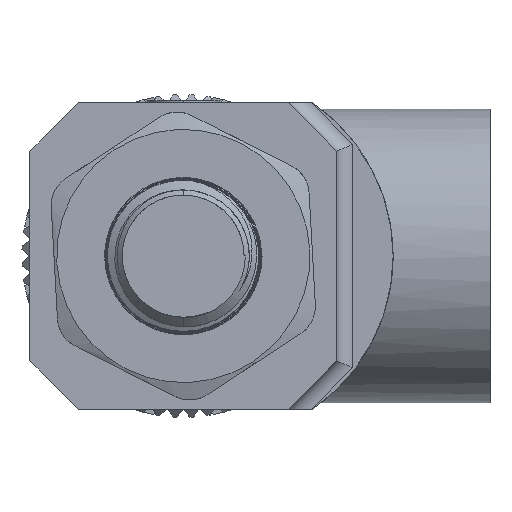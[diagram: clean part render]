
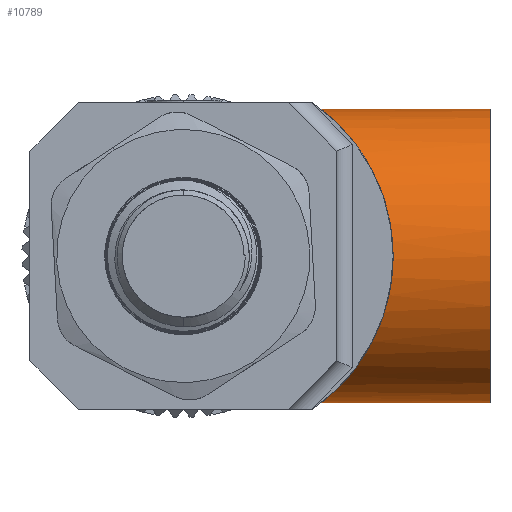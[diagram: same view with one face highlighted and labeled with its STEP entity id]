
A CAD part, front view. The second image highlights one B-rep face of the part: STEP entity #10789.
In plain terms, the highlighted cylindrical face has radius 9.1 mm (diameter 18.2 mm), a partial arc.
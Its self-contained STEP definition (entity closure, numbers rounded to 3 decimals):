
#70 = DIRECTION ( 'NONE',  ( -1., 0., 0. ) ) ;
#177 = CARTESIAN_POINT ( 'NONE',  ( 8.942, -2.453, 8.768 ) ) ;
#235 = CARTESIAN_POINT ( 'NONE',  ( 11.537, -7.166, -5.639 ) ) ;
#245 = B_SPLINE_CURVE_WITH_KNOTS ( 'NONE', 3,
 ( #2957, #8789, #13089, #12831, #177, #10219, #3085, #4545, #18547, #9966, #11774, #7550, #11715, #4730, #14793, #10461, #16015, #14732, #17536, #16203, #6194, #6319, #16140, #13153, #7615, #6257, #1803, #11911, #4801, #3145, #7740, #7675, #3338, #1740, #10400, #235, #17606, #1872, #4609, #1668, #11847, #3266, #3209, #13341, #16267, #11973, #13281, #8977, #14667, #14602, #14853, #9041 ),
 .UNSPECIFIED., .F., .F.,
 ( 4, 2, 2, 2, 2, 2, 2, 2, 2, 2, 2, 2, 2, 2, 2, 2, 2, 2, 2, 2, 2, 2, 2, 2, 2, 4 ),
 ( 0., 0.002, 0.003, 0.004, 0.006, 0.008, 0.008, 0.009, 0.011, 0.012, 0.013, 0.014, 0.015, 0.016, 0.017, 0.019, 0.02, 0.021, 0.023, 0.024, 0.025, 0.026, 0.027, 0.028, 0.029, 0.03 ),
 .UNSPECIFIED. ) ;
#263 = DIRECTION ( 'NONE',  ( -1., 0., 0. ) ) ;
#390 = CARTESIAN_POINT ( 'NONE',  ( 0., 0., 9.1 ) ) ;
#999 = VERTEX_POINT ( 'NONE', #18235 ) ;
#1464 = VECTOR ( 'NONE', #263, 1000. ) ;
#1668 = CARTESIAN_POINT ( 'NONE',  ( 10.035, -4.841, -7.711 ) ) ;
#1740 = CARTESIAN_POINT ( 'NONE',  ( 12.012, -7.815, -4.672 ) ) ;
#1803 = CARTESIAN_POINT ( 'NONE',  ( 12.988, -9.085, -0.613 ) ) ;
#1872 = CARTESIAN_POINT ( 'NONE',  ( 10.728, -5.983, -6.88 ) ) ;
#1956 = VERTEX_POINT ( 'NONE', #5621 ) ;
#2160 = LINE ( 'NONE', #390, #1464 ) ;
#2690 = CARTESIAN_POINT ( 'NONE',  ( 19., 0., -9.1 ) ) ;
#2957 = CARTESIAN_POINT ( 'NONE',  ( 8.531, 0., 9.1 ) ) ;
#3085 = CARTESIAN_POINT ( 'NONE',  ( 9.261, -3.294, 8.488 ) ) ;
#3117 = ORIENTED_EDGE ( 'NONE', *, *, #18292, .T. ) ;
#3145 = CARTESIAN_POINT ( 'NONE',  ( 12.75, -8.782, -2.467 ) ) ;
#3209 = CARTESIAN_POINT ( 'NONE',  ( 9.505, -3.834, -8.258 ) ) ;
#3266 = CARTESIAN_POINT ( 'NONE',  ( 9.633, -4.092, -8.133 ) ) ;
#3338 = CARTESIAN_POINT ( 'NONE',  ( 12.227, -8.102, -4.153 ) ) ;
#4545 = CARTESIAN_POINT ( 'NONE',  ( 9.622, -4.094, 8.148 ) ) ;
#4609 = CARTESIAN_POINT ( 'NONE',  ( 10.448, -5.548, -7.236 ) ) ;
#4730 = CARTESIAN_POINT ( 'NONE',  ( 11.522, -7.143, 5.646 ) ) ;
#4801 = CARTESIAN_POINT ( 'NONE',  ( 12.9, -8.973, -1.548 ) ) ;
#5430 = CARTESIAN_POINT ( 'NONE',  ( 0., 0., -9.1 ) ) ;
#5621 = CARTESIAN_POINT ( 'NONE',  ( 19., 0., 9.1 ) ) ;
#5760 = CARTESIAN_POINT ( 'NONE',  ( 0., 0., 0. ) ) ;
#5979 = EDGE_CURVE ( 'NONE', #1956, #18186, #2160, .T. ) ;
#6009 = VECTOR ( 'NONE', #18369, 1000. ) ;
#6194 = CARTESIAN_POINT ( 'NONE',  ( 12.794, -8.839, 2.187 ) ) ;
#6257 = CARTESIAN_POINT ( 'NONE',  ( 13., -9.1, -0.3 ) ) ;
#6319 = CARTESIAN_POINT ( 'NONE',  ( 12.895, -8.967, 1.581 ) ) ;
#6391 = VERTEX_POINT ( 'NONE', #2690 ) ;
#7081 = CIRCLE ( 'NONE', #14361, 9.1 ) ;
#7550 = CARTESIAN_POINT ( 'NONE',  ( 11.127, -6.577, 6.295 ) ) ;
#7615 = CARTESIAN_POINT ( 'NONE',  ( 13., -9.1, 0.327 ) ) ;
#7675 = CARTESIAN_POINT ( 'NONE',  ( 12.329, -8.236, -3.882 ) ) ;
#7740 = CARTESIAN_POINT ( 'NONE',  ( 12.604, -8.595, -3.049 ) ) ;
#8789 = CARTESIAN_POINT ( 'NONE',  ( 8.531, -0.638, 9.1 ) ) ;
#8977 = CARTESIAN_POINT ( 'NONE',  ( 8.697, -1.562, -8.97 ) ) ;
#9041 = CARTESIAN_POINT ( 'NONE',  ( 8.531, 0., -9.1 ) ) ;
#9468 = CARTESIAN_POINT ( 'NONE',  ( 19., 0., 0. ) ) ;
#9772 = EDGE_CURVE ( 'NONE', #18186, #999, #245, .T. ) ;
#9929 = FACE_OUTER_BOUND ( 'NONE', #10685, .T. ) ;
#9966 = CARTESIAN_POINT ( 'NONE',  ( 10.443, -5.539, 7.242 ) ) ;
#10025 = ORIENTED_EDGE ( 'NONE', *, *, #16806, .F. ) ;
#10219 = CARTESIAN_POINT ( 'NONE',  ( 9.148, -3.019, 8.59 ) ) ;
#10227 = AXIS2_PLACEMENT_3D ( 'NONE', #5760, #70, #14180 ) ;
#10400 = CARTESIAN_POINT ( 'NONE',  ( 11.898, -7.661, -4.92 ) ) ;
#10461 = CARTESIAN_POINT ( 'NONE',  ( 12.01, -7.814, 4.699 ) ) ;
#10685 = EDGE_LOOP ( 'NONE', ( #10025, #3117, #12465, #13424 ) ) ;
#10789 = ADVANCED_FACE ( 'NONE', ( #9929 ), #13746, .T. ) ;
#11715 = CARTESIAN_POINT ( 'NONE',  ( 11.261, -6.771, 6.086 ) ) ;
#11774 = CARTESIAN_POINT ( 'NONE',  ( 10.721, -5.973, 6.889 ) ) ;
#11847 = CARTESIAN_POINT ( 'NONE',  ( 9.897, -4.596, -7.859 ) ) ;
#11911 = CARTESIAN_POINT ( 'NONE',  ( 12.938, -9.021, -1.235 ) ) ;
#11973 = CARTESIAN_POINT ( 'NONE',  ( 8.944, -2.457, -8.767 ) ) ;
#12465 = ORIENTED_EDGE ( 'NONE', *, *, #5979, .T. ) ;
#12831 = CARTESIAN_POINT ( 'NONE',  ( 8.849, -2.158, 8.846 ) ) ;
#13089 = CARTESIAN_POINT ( 'NONE',  ( 8.619, -1.256, 9.034 ) ) ;
#13153 = CARTESIAN_POINT ( 'NONE',  ( 12.986, -9.083, 0.643 ) ) ;
#13281 = CARTESIAN_POINT ( 'NONE',  ( 8.85, -2.161, -8.845 ) ) ;
#13341 = CARTESIAN_POINT ( 'NONE',  ( 9.264, -3.3, -8.485 ) ) ;
#13424 = ORIENTED_EDGE ( 'NONE', *, *, #9772, .T. ) ;
#13594 = LINE ( 'NONE', #5430, #6009 ) ;
#13746 = CYLINDRICAL_SURFACE ( 'NONE', #10227, 9.1 ) ;
#14180 = DIRECTION ( 'NONE',  ( 0., 0., 1. ) ) ;
#14361 = AXIS2_PLACEMENT_3D ( 'NONE', #9468, #17924, #16645 ) ;
#14602 = CARTESIAN_POINT ( 'NONE',  ( 8.553, -0.636, -9.083 ) ) ;
#14667 = CARTESIAN_POINT ( 'NONE',  ( 8.636, -1.257, -9.018 ) ) ;
#14732 = CARTESIAN_POINT ( 'NONE',  ( 12.503, -8.464, 3.356 ) ) ;
#14793 = CARTESIAN_POINT ( 'NONE',  ( 11.649, -7.319, 5.415 ) ) ;
#14853 = CARTESIAN_POINT ( 'NONE',  ( 8.531, -0.316, -9.1 ) ) ;
#14985 = CARTESIAN_POINT ( 'NONE',  ( 8.531, 0., 9.1 ) ) ;
#16015 = CARTESIAN_POINT ( 'NONE',  ( 12.227, -8.102, 4.187 ) ) ;
#16140 = CARTESIAN_POINT ( 'NONE',  ( 12.934, -9.016, 1.273 ) ) ;
#16203 = CARTESIAN_POINT ( 'NONE',  ( 12.732, -8.76, 2.485 ) ) ;
#16267 = CARTESIAN_POINT ( 'NONE',  ( 9.15, -3.026, -8.587 ) ) ;
#16645 = DIRECTION ( 'NONE',  ( 0., 0., 1. ) ) ;
#16806 = EDGE_CURVE ( 'NONE', #6391, #999, #13594, .T. ) ;
#17536 = CARTESIAN_POINT ( 'NONE',  ( 12.587, -8.573, 3.068 ) ) ;
#17606 = CARTESIAN_POINT ( 'NONE',  ( 11.271, -6.792, -6.083 ) ) ;
#17924 = DIRECTION ( 'NONE',  ( -1., 0., 0. ) ) ;
#18186 = VERTEX_POINT ( 'NONE', #14985 ) ;
#18235 = CARTESIAN_POINT ( 'NONE',  ( 8.531, 0., -9.1 ) ) ;
#18292 = EDGE_CURVE ( 'NONE', #6391, #1956, #7081, .T. ) ;
#18369 = DIRECTION ( 'NONE',  ( -1., 0., 0. ) ) ;
#18547 = CARTESIAN_POINT ( 'NONE',  ( 9.894, -4.601, 7.872 ) ) ;
